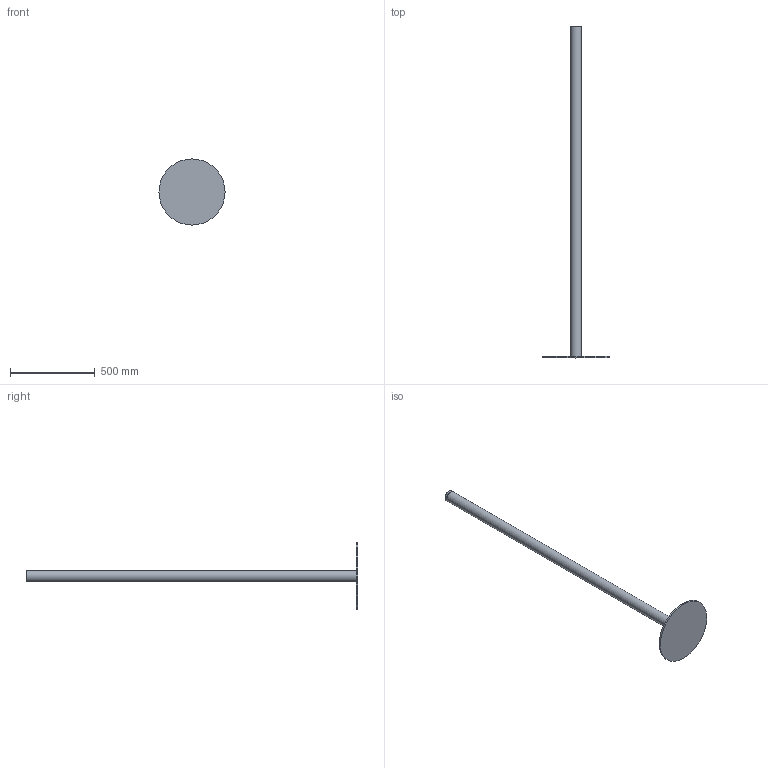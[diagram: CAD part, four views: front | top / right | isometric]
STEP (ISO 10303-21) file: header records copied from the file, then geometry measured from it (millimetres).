
FILE_DESCRIPTION(/* description */ (''),/* implementation_level */ '2;1');
FILE_NAME(/* name */ 'C:\Users\Giulia\Desktop\1719 - MISTER.stp',/* time_stamp */ '2015-04-23T10:20:14+02:00',/* author */ ('Giulia'),/* organization */ (''),/* preprocessor_version */ 'ST-DEVELOPER v15.6',/* originating_system */ 'Autodesk Inventor 2015',/* authorisation */ '');
FILE_SCHEMA (('AUTOMOTIVE_DESIGN { 1 0 10303 214 3 1 1 }'));
Length unit declared in the file: centimetre
Products named in the file (1): 1719 - MISTER
Bounding box: 390 x 1960 x 390 mm (x, y, z)
Volume: 2159996.5 mm3; surface area: 1022957.5 mm2
Topology: 2 solids, 2 shells, 10 faces, 12 edges, 8 vertices
Faces by surface type: plane 6, cylinder 4
Full cylindrical faces by diameter (mm): 59 x1, 60 x1, 65 x1, 390 x1
Entity records: 207 total; most frequent: DIRECTION 38, CARTESIAN_POINT 27, AXIS2_PLACEMENT_3D 19, EDGE_LOOP 16, ORIENTED_EDGE 16, FACE_OUTER_BOUND 10, ADVANCED_FACE 10, CIRCLE 8
